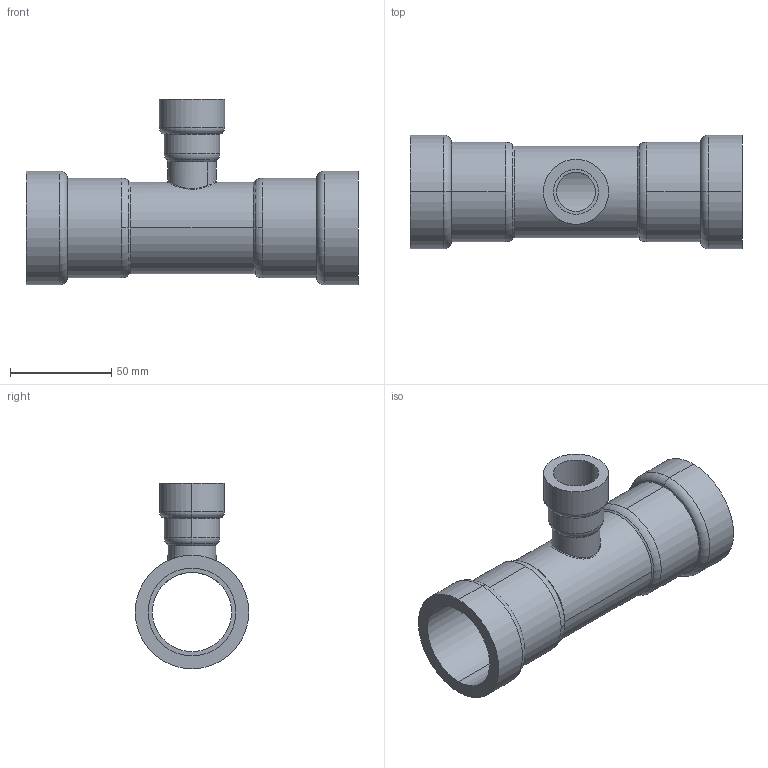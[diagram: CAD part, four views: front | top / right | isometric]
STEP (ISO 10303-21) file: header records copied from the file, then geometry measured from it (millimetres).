
FILE_DESCRIPTION(('Creo Elements/Direct Modeling STEP Export'),'2;1');
FILE_NAME('C9415_1-1-4_1-2_1-1-4.stp','2020-07-15T 9:02:04',(''),(''),'PTC Creo Elements/Direct Modeling STEP processor for AP214 (Solid Model)','PTC Creo Elements/Direct Modeling 19.0C 15-Aug-2015 (C) Parametric Technology GmbH','');
FILE_SCHEMA(('AUTOMOTIVE_DESIGN { 1 0 10303 214 1 1 1 1 }'));
Length unit declared in the file: millimetre
Products named in the file (2): 9415_1-1-4_1-2_1-1-4
Assembly tree (1 placements, depth 2):
  9415_1-1-4_1-2_1-1-4
    9415_1-1-4_1-2_1-1-4
Bounding box: 163.66 x 56 x 91.48 mm (x, y, z)
Volume: 100711.9 mm3; surface area: 56541.5 mm2
Topology: 1 solids, 1 shells, 60 faces, 144 edges, 90 vertices
Faces by surface type: cylinder 26, torus 12, cone 12, plane 6, bspline 4
Entity records: 4903 total; most frequent: CARTESIAN_POINT 3624, ORIENTED_EDGE 288, DIRECTION 238, EDGE_CURVE 144, AXIS2_PLACEMENT_3D 100, VERTEX_POINT 90, EDGE_LOOP 68, FACE_OUTER_BOUND 60
